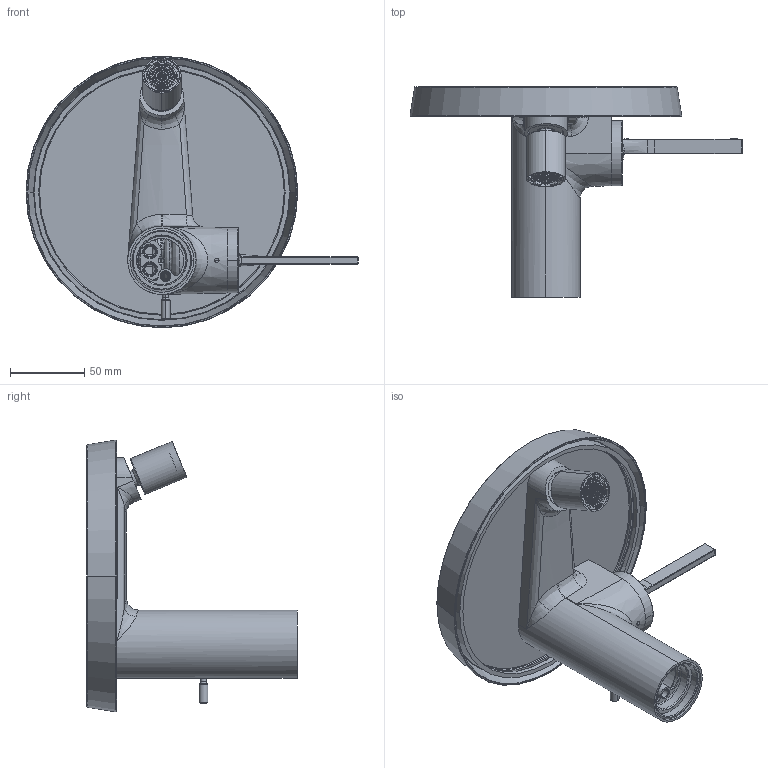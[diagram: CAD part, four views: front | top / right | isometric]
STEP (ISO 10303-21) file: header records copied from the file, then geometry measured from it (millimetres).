
FILE_DESCRIPTION((''),'2;1');
FILE_NAME('5-01610-000_ASM','2022-05-11T15:27:32',('tobxav01'),(''),'CREO PARAMETRIC BY PTC INC, 2017380','CREO PARAMETRIC BY PTC INC, 2017380','');
FILE_SCHEMA(('CONFIG_CONTROL_DESIGN','SHAPE_APPEARANCE_LAYERS_GROUPS'));
Products named in the file (13): 444207; 564044; 5-70116-608_ASM; 563004; 5-70116-601_ASM; 560036; 564015; 5-59043-001; 7-73544-500; 561071; 5-67051-608_ASM; 561061; 5-01610-000_ASM
Assembly tree (12 placements, depth 4):
  5-01610-000_ASM
    444207
    5-70116-601_ASM
      5-70116-608_ASM
        564044
      563004
    560036
    564015
    5-59043-001
    7-73544-500
    5-67051-608_ASM
      561071
    561061
Bounding box: 223.62 x 141.5 x 183.04 mm (x, y, z)
Volume: 305293 mm3; surface area: 221090.7 mm2
Topology: 9 solids, 32 shells, 1650 faces, 4158 edges, 2583 vertices
Faces by surface type: plane 539, cylinder 491, bspline 252, cone 163, torus 156, sphere 49
Entity records: 82742 total; most frequent: CARTESIAN_POINT 28422, ORIENTED_EDGE 8174, DIRECTION 7232, EDGE_CURVE 4152, PRESENTATION_STYLE_ASSIGNMENT 3487, STYLED_ITEM 3476, AXIS2_PLACEMENT_3D 2938, VERTEX_POINT 2583
